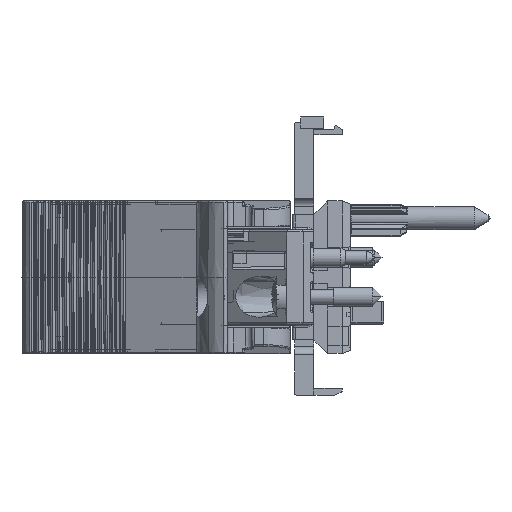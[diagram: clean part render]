
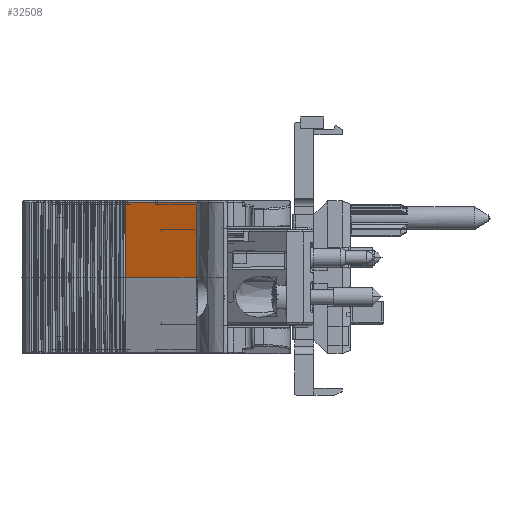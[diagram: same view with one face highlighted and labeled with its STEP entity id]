
A CAD part, front view. The second image highlights one B-rep face of the part: STEP entity #32508.
In plain terms, the highlighted planar face has unit normal (-0.391, -0.92, 0.009) as drawn and (0.391, -0.92, -0.009) by its records, which use the part's own axes.
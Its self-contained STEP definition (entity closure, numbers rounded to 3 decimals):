
#19065=PLANE('',#90032);
#23267=LINE('',#117672,#27621);
#23321=LINE('',#118696,#27675);
#23322=LINE('',#118698,#27676);
#27621=VECTOR('',#97670,1.);
#27675=VECTOR('',#97990,1.);
#27676=VECTOR('',#97991,1.);
#32508=ADVANCED_FACE('',(#37018),#19065,.T.);
#37018=FACE_OUTER_BOUND('',#41137,.T.);
#41137=EDGE_LOOP('',(#49777,#49778,#49779,#49780));
#45349=B_SPLINE_CURVE_WITH_KNOTS('',3,(#118699,#118700,#118701,#118702),
 .UNSPECIFIED.,.F.,.F.,(4,4),(0.,1.),.UNSPECIFIED.);
#49777=ORIENTED_EDGE('',*,*,#76999,.F.);
#49778=ORIENTED_EDGE('',*,*,#76831,.T.);
#49779=ORIENTED_EDGE('',*,*,#77000,.T.);
#49780=ORIENTED_EDGE('',*,*,#77001,.F.);
#69165=VERTEX_POINT('',#114350);
#69791=VERTEX_POINT('',#117669);
#69792=VERTEX_POINT('',#117671);
#69886=VERTEX_POINT('',#118697);
#76831=EDGE_CURVE('',#69791,#69792,#23267,.T.);
#76999=EDGE_CURVE('',#69791,#69886,#23321,.T.);
#77000=EDGE_CURVE('',#69792,#69165,#23322,.T.);
#77001=EDGE_CURVE('',#69886,#69165,#45349,.T.);
#90032=AXIS2_PLACEMENT_3D('',#118703,#97992,#97993);
#97670=DIRECTION('',(-0.005,-0.011,1.));
#97990=DIRECTION('',(-0.921,-0.391,0.));
#97991=DIRECTION('',(-0.921,-0.391,0.));
#97992=DIRECTION('',(0.391,-0.92,-0.009));
#97993=DIRECTION('',(0.,-0.009,1.));
#114350=CARTESIAN_POINT('',(-38.519,-47.517,9.85));
#117669=CARTESIAN_POINT('',(-29.272,-43.5,0.148));
#117671=CARTESIAN_POINT('',(-29.317,-43.611,9.85));
#117672=CARTESIAN_POINT('',(-29.272,-43.5,0.148));
#118696=CARTESIAN_POINT('',(-29.088,-43.422,0.148));
#118697=CARTESIAN_POINT('',(-38.614,-47.466,0.149));
#118698=CARTESIAN_POINT('',(-28.857,-43.416,9.85));
#118699=CARTESIAN_POINT('',(-38.614,-47.466,0.149));
#118700=CARTESIAN_POINT('',(-38.583,-47.483,3.383));
#118701=CARTESIAN_POINT('',(-38.551,-47.5,6.616));
#118702=CARTESIAN_POINT('',(-38.519,-47.517,9.85));
#118703=CARTESIAN_POINT('',(-28.857,-43.416,9.88));
